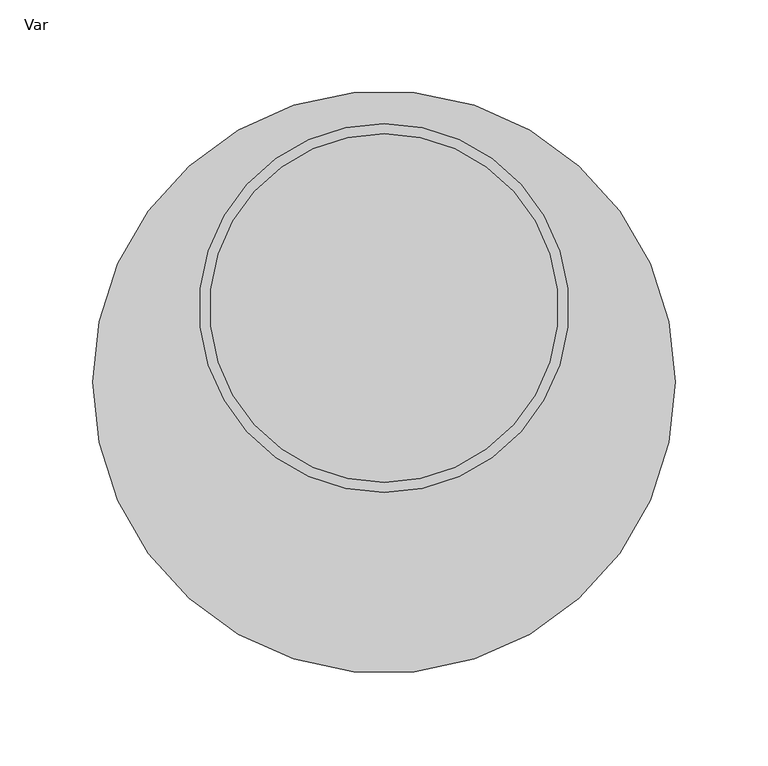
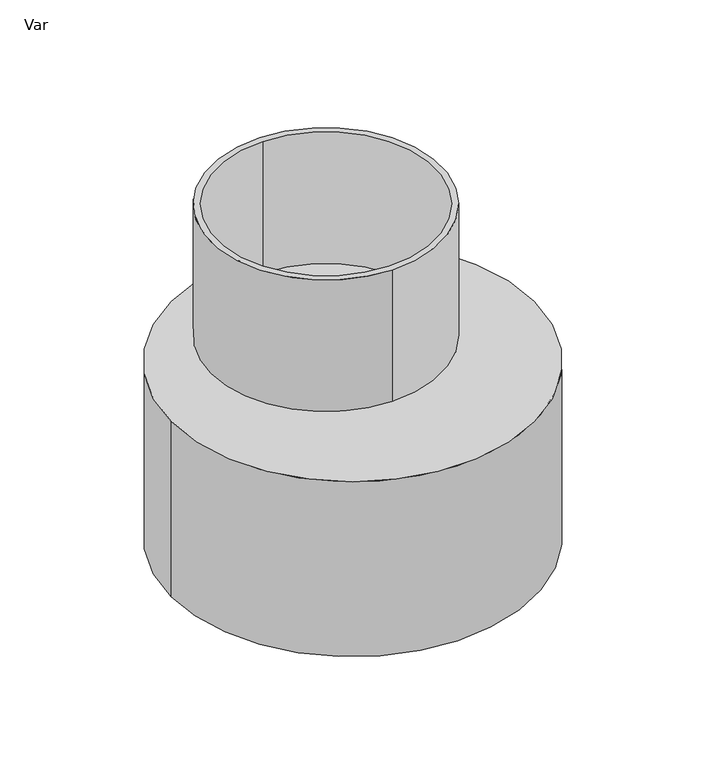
"""IFC4 building model written with IfcOpenShell, lengths in millimetres: pipe fitting geometry, AmancoWavin_ConexõesdeTubos_AquacellNG_AdaptadorDN315x200 : Var."""

from ifc_helpers import new_model, si_unit, point, frame_2d, origin, origin_with_axes, origin_2d, place, context, project, spatial, circle_curve, trimmed, segment, composite_curve, outline, extrude, source, transform, mapped, element, save


def var_21599c06(model_context):
    return source(origin(), model_context, "Body", "SweptSolid", [
        extrude(outline(composite_curve([segment(trimmed(circle_curve(frame_2d((0.0, 40.0)), 99.5), [point((0.0, 139.5))], [point((0.0, -59.5))], False, "CARTESIAN"), True, "CONTINUOUS"), segment(trimmed(circle_curve(frame_2d((0.0, 40.0)), 99.5), [point((0.0, -59.5))], [point((0.0, 139.5))], False, "CARTESIAN"), True, "CONTINUOUS")], self_intersect=False), holes=[composite_curve([segment(trimmed(circle_curve(frame_2d((0.0, 40.0)), 94.0), [point((0.0, 134.0))], [point((0.0, -54.0))], True, "CARTESIAN"), True, "CONTINUOUS"), segment(trimmed(circle_curve(frame_2d((0.0, 40.0)), 94.0), [point((0.0, -54.0))], [point((0.0, 134.0))], True, "CARTESIAN"), True, "CONTINUOUS")], self_intersect=False)]), origin_with_axes(), (0.0, 0.0, 1.0), 280.0),
        extrude(outline(composite_curve([segment(trimmed(circle_curve(origin_2d(), 157.0), [point((-157.0, 0.0))], [point((157.0, 0.0))], False, "CARTESIAN"), True, "CONTINUOUS"), segment(trimmed(circle_curve(origin_2d(), 157.0), [point((157.0, 0.0))], [point((-157.0, 0.0))], False, "CARTESIAN"), True, "CONTINUOUS")], self_intersect=False)), origin_with_axes(), (0.0, 0.0, 1.0), 160.0),
    ])


if __name__ == "__main__":
    model = new_model("IFC4")
    model_context = context("Model", 3, world=origin())
    ifc_project = project(units=[si_unit("LENGTHUNIT", "METRE", prefix="MILLI")], contexts=[model_context])
    site = spatial("IfcSite", under=ifc_project)
    building = spatial("IfcBuilding", under=site)
    placement = place(None, origin())
    var_shape = var_21599c06(model_context)
    element("IfcPipeFitting", 1, ObjectType="AmancoWavin_ConexõesdeTubos_AquacellNG_AdaptadorDN315x200 : Var", at=placement, inside=building, context=model_context, shape_type="MappedRepresentation", body=[
        mapped(var_shape, transform((0.0, 0.0, 0.0), x_axis=(1.0, 0.0, 0.0), y_axis=(0.0, 1.0, 0.0), z_axis=(0.0, 0.0, 1.0))),
    ])
    save(model, "model.ifc")
